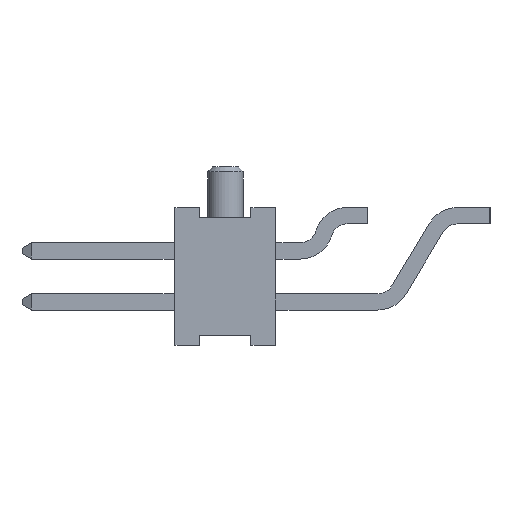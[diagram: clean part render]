
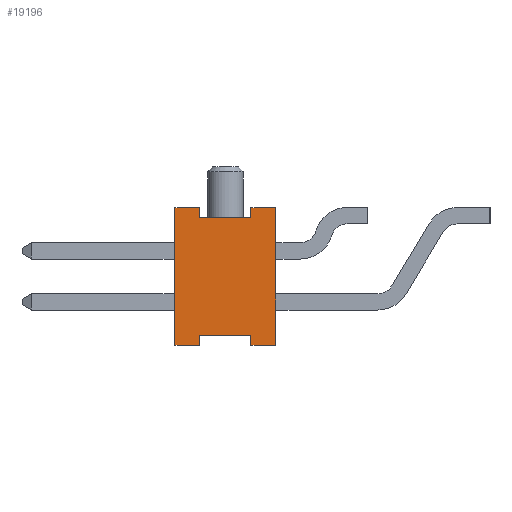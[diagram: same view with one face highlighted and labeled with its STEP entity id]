
A CAD part, left-side view. The second image highlights one B-rep face of the part: STEP entity #19196.
In plain terms, the highlighted planar face has unit normal (-1, 0, 0).
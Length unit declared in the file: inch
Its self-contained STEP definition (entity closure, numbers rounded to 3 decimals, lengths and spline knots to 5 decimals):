
#534=ORIENTED_EDGE('',*,*,#6286,.F.);
#535=ORIENTED_EDGE('',*,*,#6287,.F.);
#536=ORIENTED_EDGE('',*,*,#6278,.T.);
#537=ORIENTED_EDGE('',*,*,#6288,.T.);
#538=ORIENTED_EDGE('',*,*,#6284,.F.);
#539=ORIENTED_EDGE('',*,*,#6289,.F.);
#540=ORIENTED_EDGE('',*,*,#6290,.F.);
#541=ORIENTED_EDGE('',*,*,#6291,.F.);
#542=ORIENTED_EDGE('',*,*,#6292,.F.);
#543=ORIENTED_EDGE('',*,*,#6293,.F.);
#544=ORIENTED_EDGE('',*,*,#6294,.T.);
#545=ORIENTED_EDGE('',*,*,#6295,.F.);
#6278=EDGE_CURVE('',#9154,#9155,#11020,.T.);
#6284=EDGE_CURVE('',#9160,#9161,#11026,.T.);
#6286=EDGE_CURVE('',#9162,#9163,#11028,.T.);
#6287=EDGE_CURVE('',#9154,#9162,#11029,.T.);
#6288=EDGE_CURVE('',#9155,#9161,#11030,.T.);
#6289=EDGE_CURVE('',#9164,#9160,#11031,.T.);
#6290=EDGE_CURVE('',#9165,#9164,#11032,.T.);
#6291=EDGE_CURVE('',#9166,#9165,#11033,.T.);
#6292=EDGE_CURVE('',#9167,#9166,#11034,.T.);
#6293=EDGE_CURVE('',#9168,#9167,#11035,.T.);
#6294=EDGE_CURVE('',#9168,#9169,#11036,.T.);
#6295=EDGE_CURVE('',#9163,#9169,#11037,.T.);
#9154=VERTEX_POINT('',#26863);
#9155=VERTEX_POINT('',#26864);
#9160=VERTEX_POINT('',#26875);
#9161=VERTEX_POINT('',#26877);
#9162=VERTEX_POINT('',#26881);
#9163=VERTEX_POINT('',#26882);
#9164=VERTEX_POINT('',#26886);
#9165=VERTEX_POINT('',#26888);
#9166=VERTEX_POINT('',#26890);
#9167=VERTEX_POINT('',#26892);
#9168=VERTEX_POINT('',#26894);
#9169=VERTEX_POINT('',#26896);
#11020=LINE('',#26862,#13570);
#11026=LINE('',#26876,#13576);
#11028=LINE('',#26880,#13578);
#11029=LINE('',#26883,#13579);
#11030=LINE('',#26884,#13580);
#11031=LINE('',#26885,#13581);
#11032=LINE('',#26887,#13582);
#11033=LINE('',#26889,#13583);
#11034=LINE('',#26891,#13584);
#11035=LINE('',#26893,#13585);
#11036=LINE('',#26895,#13586);
#11037=LINE('',#26897,#13587);
#13570=VECTOR('',#21610,39.37008);
#13576=VECTOR('',#21618,39.37008);
#13578=VECTOR('',#21622,39.37008);
#13579=VECTOR('',#21623,39.37008);
#13580=VECTOR('',#21624,39.37008);
#13581=VECTOR('',#21625,39.37008);
#13582=VECTOR('',#21626,39.37008);
#13583=VECTOR('',#21627,39.37008);
#13584=VECTOR('',#21628,39.37008);
#13585=VECTOR('',#21629,39.37008);
#13586=VECTOR('',#21630,39.37008);
#13587=VECTOR('',#21631,39.37008);
#16122=EDGE_LOOP('',(#534,#535,#536,#537,#538,#539,#540,#541,#542,#543,
#544,#545));
#17230=FACE_BOUND('',#16122,.T.);
#18338=PLANE('',#20257);
#19196=ADVANCED_FACE('',(#17230),#18338,.F.);
#20257=AXIS2_PLACEMENT_3D('',#26879,#21620,#21621);
#21610=DIRECTION('',(0.,-1.,0.));
#21618=DIRECTION('',(0.,-1.,0.));
#21620=DIRECTION('',(1.,0.,0.));
#21621=DIRECTION('',(0.,0.,-1.));
#21622=DIRECTION('',(0.,1.,0.));
#21623=DIRECTION('',(0.,0.,1.));
#21624=DIRECTION('',(0.,0.,1.));
#21625=DIRECTION('',(0.,0.,1.));
#21626=DIRECTION('',(0.,-1.,0.));
#21627=DIRECTION('',(0.,0.,-1.));
#21628=DIRECTION('',(0.,-1.,0.));
#21629=DIRECTION('',(0.,0.,1.));
#21630=DIRECTION('',(0.,-1.,0.));
#21631=DIRECTION('',(0.,0.,-1.));
#26862=CARTESIAN_POINT('',(-0.5,0.099,-0.0675));
#26863=CARTESIAN_POINT('',(-0.5,0.0245,-0.0675));
#26864=CARTESIAN_POINT('',(-0.5,0.,-0.0675));
#26875=CARTESIAN_POINT('',(-0.5,0.0245,0.0675));
#26876=CARTESIAN_POINT('',(-0.5,0.099,0.0675));
#26877=CARTESIAN_POINT('',(-0.5,0.,0.0675));
#26879=CARTESIAN_POINT('',(-0.5,0.099,-0.0675));
#26880=CARTESIAN_POINT('',(-0.5,0.0245,-0.0575));
#26881=CARTESIAN_POINT('',(-0.5,0.0245,-0.0575));
#26882=CARTESIAN_POINT('',(-0.5,0.0745,-0.0575));
#26883=CARTESIAN_POINT('',(-0.5,0.0245,-0.0675));
#26884=CARTESIAN_POINT('',(-0.5,0.,-0.0675));
#26885=CARTESIAN_POINT('',(-0.5,0.0245,0.0575));
#26886=CARTESIAN_POINT('',(-0.5,0.0245,0.0575));
#26887=CARTESIAN_POINT('',(-0.5,0.0745,0.0575));
#26888=CARTESIAN_POINT('',(-0.5,0.0745,0.0575));
#26889=CARTESIAN_POINT('',(-0.5,0.0745,0.0675));
#26890=CARTESIAN_POINT('',(-0.5,0.0745,0.0675));
#26891=CARTESIAN_POINT('',(-0.5,0.099,0.0675));
#26892=CARTESIAN_POINT('',(-0.5,0.099,0.0675));
#26893=CARTESIAN_POINT('',(-0.5,0.099,-0.0675));
#26894=CARTESIAN_POINT('',(-0.5,0.099,-0.0675));
#26895=CARTESIAN_POINT('',(-0.5,0.099,-0.0675));
#26896=CARTESIAN_POINT('',(-0.5,0.0745,-0.0675));
#26897=CARTESIAN_POINT('',(-0.5,0.0745,-0.0575));
